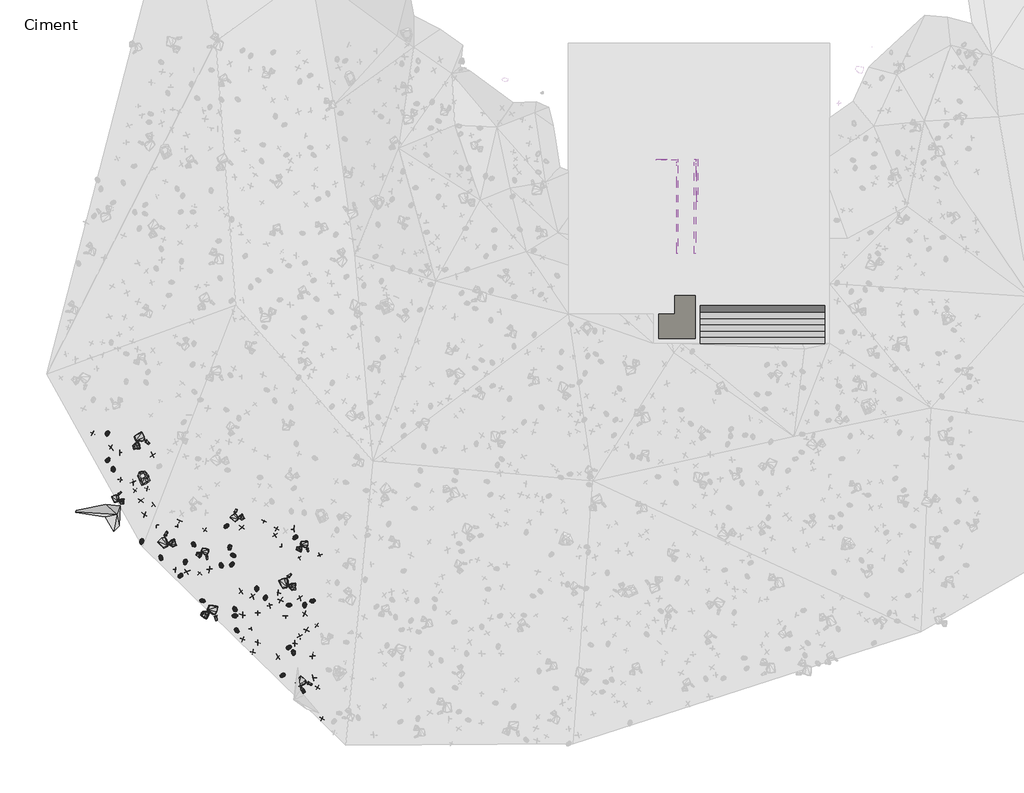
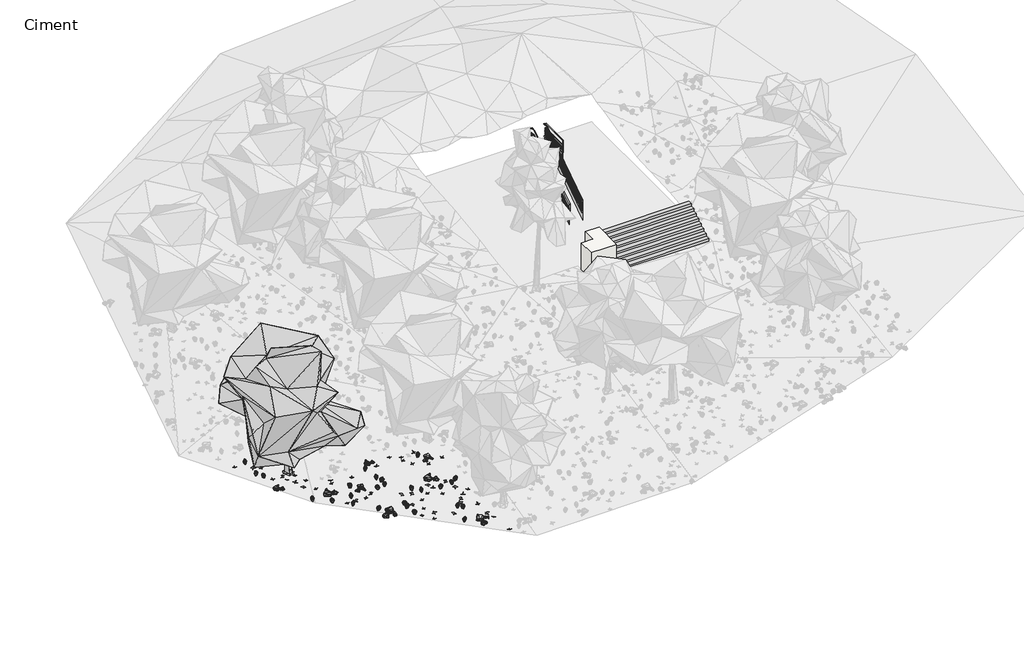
# One storey, part 1 of 30: 86 geographic elements, 2 railings, 1 slab, 1 stair flight.
"""IFC4 building model written with IfcOpenShell, lengths in millimetres."""

from ifc_helpers import new_model, si_unit, frame, origin, place, context, project, spatial, polyline, outline, extrude, transform, mapped, element, save
from components import enscape_assetdefinition_bush_025_fern_enscape_5718bf32, enscape_assetdefinition_bush_054_plant_09_version_2_enscape_7b546a12, enscape_assetdefinition_bush_062_plant_09_version_3_enscape_ccf8c8eb, enscape_assetdefinition_deciduous_tree_029_elm_enscape_e4c49baf, enscape_assetdefinition_stone_013_group_enscape_516da325, enscape_assetdefinition_stone_013_group_enscape_db9b3e91, railing_91c5b084, railing_c1485744, stair_flight_0d7ca2d1

model = new_model("IFC4")

# Units and contexts
model_context = context("Model", 3, world=origin())
ifc_project = project(units=[si_unit("LENGTHUNIT", "METRE", prefix="MILLI")], contexts=[model_context])

# Site, building, storey
site = spatial("IfcSite", under=ifc_project)
building = spatial("IfcBuilding", under=site)
storey = spatial("IfcBuildingStorey", under=building, Name="Ciment", Elevation=-1500.0)

# Geographic elements
placement = place(None, origin())
enscape_assetdefinition_bush_025_fern_enscape_shape = enscape_assetdefinition_bush_025_fern_enscape_5718bf32(model_context)
element("IfcGeographicElement", 1, ObjectType="Enscape AssetDefinition - Bush 025 Fern : Enscape AssetDefinition - Bush 025 Fern", at=placement, inside=storey, context=model_context, shape_type="MappedRepresentation", body=[
    mapped(enscape_assetdefinition_bush_025_fern_enscape_shape, transform((-20102.2186279, -25564.6743774, -2973.0787277), x_axis=(0.6694233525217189, -0.742881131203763, 0.0), y_axis=(0.742881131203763, 0.6694233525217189, 0.0), z_axis=(0.0, 0.0, 1.0))),
])
element("IfcGeographicElement", 2, ObjectType="Enscape AssetDefinition - Bush 025 Fern : Enscape AssetDefinition - Bush 025 Fern", at=placement, inside=storey, context=model_context, shape_type="MappedRepresentation", body=[
    mapped(enscape_assetdefinition_bush_025_fern_enscape_shape, transform((-17600.1472473, -26370.595932, -2863.1682396), x_axis=(0.735986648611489, 0.676996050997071, 0.0), y_axis=(-0.676996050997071, 0.735986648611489, 0.0), z_axis=(0.0, 0.0, 1.0))),
])
element("IfcGeographicElement", 3, ObjectType="Enscape AssetDefinition - Bush 025 Fern : Enscape AssetDefinition - Bush 025 Fern", at=placement, inside=storey, context=model_context, shape_type="MappedRepresentation", body=[
    mapped(enscape_assetdefinition_bush_025_fern_enscape_shape, transform((-20445.2896118, -21581.6516876, -2728.1508446), x_axis=(-0.0021429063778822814, -0.999997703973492, 0.0), y_axis=(0.999997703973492, -0.0021429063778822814, 0.0), z_axis=(0.0, 0.0, 1.0))),
])
element("IfcGeographicElement", 4, ObjectType="Enscape AssetDefinition - Bush 025 Fern : Enscape AssetDefinition - Bush 025 Fern", at=placement, inside=storey, context=model_context, shape_type="MappedRepresentation", body=[
    mapped(enscape_assetdefinition_bush_025_fern_enscape_shape, transform((-23745.6932068, -22083.1394196, -2978.1727791), x_axis=(0.3680005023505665, -0.929825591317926, 0.0), y_axis=(0.929825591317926, 0.3680005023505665, 0.0), z_axis=(0.0, 0.0, 1.0))),
])
element("IfcGeographicElement", 5, ObjectType="Enscape AssetDefinition - Bush 025 Fern : Enscape AssetDefinition - Bush 025 Fern", at=placement, inside=storey, context=model_context, shape_type="MappedRepresentation", body=[
    mapped(enscape_assetdefinition_bush_025_fern_enscape_shape, transform((-20613.6112213, -20560.377121, -2670.6175804), x_axis=(-0.5796406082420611, -0.8148722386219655, 0.0), y_axis=(0.8148722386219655, -0.5796406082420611, 0.0), z_axis=(0.0, 0.0, 1.0))),
])
element("IfcGeographicElement", 6, ObjectType="Enscape AssetDefinition - Bush 025 Fern : Enscape AssetDefinition - Bush 025 Fern", at=placement, inside=storey, context=model_context, shape_type="MappedRepresentation", body=[
    mapped(enscape_assetdefinition_bush_025_fern_enscape_shape, transform((-22818.3917999, -22942.9569244, -2975.1124382), x_axis=(-0.6170606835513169, -0.7869155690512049, 0.0), y_axis=(0.7869155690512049, -0.6170606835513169, 0.0), z_axis=(0.0, 0.0, 1.0))),
])
element("IfcGeographicElement", 7, ObjectType="Enscape AssetDefinition - Bush 025 Fern : Enscape AssetDefinition - Bush 025 Fern", at=placement, inside=storey, context=model_context, shape_type="MappedRepresentation", body=[
    mapped(enscape_assetdefinition_bush_025_fern_enscape_shape, transform((-24664.0262604, -21301.3744354, -2991.165638), x_axis=(-0.066039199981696, -0.9978170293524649, 0.0), y_axis=(0.9978170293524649, -0.066039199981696, 0.0), z_axis=(0.0, 0.0, 1.0))),
])
element("IfcGeographicElement", 8, ObjectType="Enscape AssetDefinition - Bush 025 Fern : Enscape AssetDefinition - Bush 025 Fern", at=placement, inside=storey, context=model_context, shape_type="MappedRepresentation", body=[
    mapped(enscape_assetdefinition_bush_025_fern_enscape_shape, transform((-19157.8292847, -23571.9432831, -2777.3804665), x_axis=(0.1875810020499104, -0.9822491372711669, 0.0), y_axis=(0.9822491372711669, 0.1875810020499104, 0.0), z_axis=(0.0, 0.0, 1.0))),
])
element("IfcGeographicElement", 9, ObjectType="Enscape AssetDefinition - Bush 025 Fern : Enscape AssetDefinition - Bush 025 Fern", at=placement, inside=storey, context=model_context, shape_type="MappedRepresentation", body=[
    mapped(enscape_assetdefinition_bush_025_fern_enscape_shape, transform((-20199.508667, -24524.0306854, -2909.5883369), x_axis=(-0.6709760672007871, 0.7414790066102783, 0.0), y_axis=(-0.7414790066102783, -0.6709760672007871, 0.0), z_axis=(0.0, 0.0, 1.0))),
])
element("IfcGeographicElement", 10, ObjectType="Enscape AssetDefinition - Bush 025 Fern : Enscape AssetDefinition - Bush 025 Fern", at=placement, inside=storey, context=model_context, shape_type="MappedRepresentation", body=[
    mapped(enscape_assetdefinition_bush_025_fern_enscape_shape, transform((-20212.9859924, -24852.8499603, -2932.5480461), x_axis=(-0.9701738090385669, -0.24241035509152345, 0.0), y_axis=(0.24241035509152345, -0.9701738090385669, 0.0), z_axis=(0.0, 0.0, 1.0))),
])
element("IfcGeographicElement", 11, ObjectType="Enscape AssetDefinition - Bush 025 Fern : Enscape AssetDefinition - Bush 025 Fern", at=placement, inside=storey, context=model_context, shape_type="MappedRepresentation", body=[
    mapped(enscape_assetdefinition_bush_025_fern_enscape_shape, transform((-20849.5025635, -22427.1526337, -2811.4142418), x_axis=(-0.5286842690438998, 0.8488185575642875, 0.0), y_axis=(-0.8488185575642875, -0.5286842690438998, 0.0), z_axis=(0.0, 0.0, 1.0))),
])
element("IfcGeographicElement", 12, ObjectType="Enscape AssetDefinition - Bush 025 Fern : Enscape AssetDefinition - Bush 025 Fern", at=placement, inside=storey, context=model_context, shape_type="MappedRepresentation", body=[
    mapped(enscape_assetdefinition_bush_025_fern_enscape_shape, transform((-22167.1066284, -21444.6353912, -2831.8223953), x_axis=(0.6303908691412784, -0.7762778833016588, 0.0), y_axis=(0.7762778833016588, 0.6303908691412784, 0.0), z_axis=(0.0, 0.0, 1.0))),
])
element("IfcGeographicElement", 13, ObjectType="Enscape AssetDefinition - Bush 025 Fern : Enscape AssetDefinition - Bush 025 Fern", at=placement, inside=storey, context=model_context, shape_type="MappedRepresentation", body=[
    mapped(enscape_assetdefinition_bush_025_fern_enscape_shape, transform((-16853.2295227, -24327.1312714, -2677.008152), x_axis=(-0.16773880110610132, 0.9858314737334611, 0.0), y_axis=(-0.9858314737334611, -0.16773880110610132, 0.0), z_axis=(0.0, 0.0, 1.0))),
])
element("IfcGeographicElement", 14, ObjectType="Enscape AssetDefinition - Bush 025 Fern : Enscape AssetDefinition - Bush 025 Fern", at=placement, inside=storey, context=model_context, shape_type="MappedRepresentation", body=[
    mapped(enscape_assetdefinition_bush_025_fern_enscape_shape, transform((-16469.1810608, -24141.708374, -2639.3842697), x_axis=(0.9436808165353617, 0.3308572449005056, 0.0), y_axis=(-0.3308572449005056, 0.9436808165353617, 0.0), z_axis=(0.0, 0.0, 1.0))),
])
element("IfcGeographicElement", 15, ObjectType="Enscape AssetDefinition - Bush 025 Fern : Enscape AssetDefinition - Bush 025 Fern", at=placement, inside=storey, context=model_context, shape_type="MappedRepresentation", body=[
    mapped(enscape_assetdefinition_bush_025_fern_enscape_shape, transform((-26278.3870697, -17383.4896088, -2939.6257401), x_axis=(0.4544900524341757, 0.8907518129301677, 0.0), y_axis=(-0.8907518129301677, 0.4544900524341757, 0.0), z_axis=(0.0, 0.0, 1.0))),
])
element("IfcGeographicElement", 16, ObjectType="Enscape AssetDefinition - Bush 025 Fern : Enscape AssetDefinition - Bush 025 Fern", at=placement, inside=storey, context=model_context, shape_type="MappedRepresentation", body=[
    mapped(enscape_assetdefinition_bush_025_fern_enscape_shape, transform((-21753.5991669, -24129.7225952, -2984.9908352), x_axis=(-0.9996823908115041, -0.025201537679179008, 0.0), y_axis=(0.025201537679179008, -0.9996823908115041, 0.0), z_axis=(0.0, 0.0, 1.0))),
])
element("IfcGeographicElement", 17, ObjectType="Enscape AssetDefinition - Bush 025 Fern : Enscape AssetDefinition - Bush 025 Fern", at=placement, inside=storey, context=model_context, shape_type="MappedRepresentation", body=[
    mapped(enscape_assetdefinition_bush_025_fern_enscape_shape, transform((-20271.5187073, -21961.5077972, -2742.2623634), x_axis=(0.973821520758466, -0.22731398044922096, 0.0), y_axis=(0.22731398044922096, 0.973821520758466, 0.0), z_axis=(0.0, 0.0, 1.0))),
])
element("IfcGeographicElement", 18, ObjectType="Enscape AssetDefinition - Bush 025 Fern : Enscape AssetDefinition - Bush 025 Fern", at=placement, inside=storey, context=model_context, shape_type="MappedRepresentation", body=[
    mapped(enscape_assetdefinition_bush_025_fern_enscape_shape, transform((-20334.11026, -22384.9029541, -2774.7921944), x_axis=(0.5225578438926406, 0.8526038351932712, 0.0), y_axis=(-0.8526038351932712, 0.5225578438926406, 0.0), z_axis=(0.0, 0.0, 1.0))),
])
element("IfcGeographicElement", 19, ObjectType="Enscape AssetDefinition - Bush 025 Fern : Enscape AssetDefinition - Bush 025 Fern", at=placement, inside=storey, context=model_context, shape_type="MappedRepresentation", body=[
    mapped(enscape_assetdefinition_bush_025_fern_enscape_shape, transform((-17917.3030853, -27705.9116364, -2973.6123085), x_axis=(-0.8100790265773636, -0.5863207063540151, 0.0), y_axis=(0.5863207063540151, -0.8100790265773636, 0.0), z_axis=(0.0, 0.0, 1.0))),
])
element("IfcGeographicElement", 20, ObjectType="Enscape AssetDefinition - Bush 025 Fern : Enscape AssetDefinition - Bush 025 Fern", at=placement, inside=storey, context=model_context, shape_type="MappedRepresentation", body=[
    mapped(enscape_assetdefinition_bush_025_fern_enscape_shape, transform((-17312.5934601, -21097.486496, -2490.2858734), x_axis=(-0.652975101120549, -0.7573793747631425, 0.0), y_axis=(0.7573793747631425, -0.652975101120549, 0.0), z_axis=(0.0, 0.0, 1.0))),
])
element("IfcGeographicElement", 21, ObjectType="Enscape AssetDefinition - Bush 025 Fern : Enscape AssetDefinition - Bush 025 Fern", at=placement, inside=storey, context=model_context, shape_type="MappedRepresentation", body=[
    mapped(enscape_assetdefinition_bush_025_fern_enscape_shape, transform((-26022.7928162, -17822.5498199, -2938.5557175), x_axis=(-0.26306520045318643, 0.9647780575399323, 0.0), y_axis=(-0.9647780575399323, -0.26306520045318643, 0.0), z_axis=(0.0, 0.0, 1.0))),
])
element("IfcGeographicElement", 22, ObjectType="Enscape AssetDefinition - Bush 025 Fern : Enscape AssetDefinition - Bush 025 Fern", at=placement, inside=storey, context=model_context, shape_type="MappedRepresentation", body=[
    mapped(enscape_assetdefinition_bush_025_fern_enscape_shape, transform((-18742.3019409, -23998.1784821, -2778.7578106), x_axis=(-0.21654940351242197, -0.9762716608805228, 0.0), y_axis=(0.9762716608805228, -0.21654940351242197, 0.0), z_axis=(0.0, 0.0, 1.0))),
])
element("IfcGeographicElement", 23, ObjectType="Enscape AssetDefinition - Bush 025 Fern : Enscape AssetDefinition - Bush 025 Fern", at=placement, inside=storey, context=model_context, shape_type="MappedRepresentation", body=[
    mapped(enscape_assetdefinition_bush_025_fern_enscape_shape, transform((-26308.7806702, -16124.0005493, -2878.2701492), x_axis=(-0.2324594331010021, -0.9726060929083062, 0.0), y_axis=(0.9726060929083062, -0.2324594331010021, 0.0), z_axis=(0.0, 0.0, 1.0))),
])
element("IfcGeographicElement", 24, ObjectType="Enscape AssetDefinition - Bush 025 Fern : Enscape AssetDefinition - Bush 025 Fern", at=placement, inside=storey, context=model_context, shape_type="MappedRepresentation", body=[
    mapped(enscape_assetdefinition_bush_025_fern_enscape_shape, transform((-22576.2023926, -22285.3679657, -2915.0867462), x_axis=(-0.035206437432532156, -0.9993800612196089, 0.0), y_axis=(0.9993800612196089, -0.035206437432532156, 0.0), z_axis=(0.0, 0.0, 1.0))),
])
element("IfcGeographicElement", 25, ObjectType="Enscape AssetDefinition - Bush 025 Fern : Enscape AssetDefinition - Bush 025 Fern", at=placement, inside=storey, context=model_context, shape_type="MappedRepresentation", body=[
    mapped(enscape_assetdefinition_bush_025_fern_enscape_shape, transform((-17395.9350586, -26624.0520477, -2866.7986393), x_axis=(0.3430333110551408, -0.939323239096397, 0.0), y_axis=(0.939323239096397, 0.3430333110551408, 0.0), z_axis=(0.0, 0.0, 1.0))),
])
element("IfcGeographicElement", 26, ObjectType="Enscape AssetDefinition - Bush 025 Fern : Enscape AssetDefinition - Bush 025 Fern", at=placement, inside=storey, context=model_context, shape_type="MappedRepresentation", body=[
    mapped(enscape_assetdefinition_bush_025_fern_enscape_shape, transform((-17594.6063995, -24346.9982147, -2726.9423008), x_axis=(0.9698204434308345, 0.24382023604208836, 0.0), y_axis=(-0.24382023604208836, 0.9698204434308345, 0.0), z_axis=(0.0, 0.0, 1.0))),
])
enscape_assetdefinition_bush_054_plant_09_version_2_enscape_shape = enscape_assetdefinition_bush_054_plant_09_version_2_enscape_7b546a12(model_context)
element("IfcGeographicElement", 27, ObjectType="Enscape AssetDefinition - Bush 054 Plant 09, Version 2 : Enscape AssetDefinition - Bush 054 Plant 09, Version 2", at=placement, inside=storey, context=model_context, shape_type="MappedRepresentation", body=[
    mapped(enscape_assetdefinition_bush_054_plant_09_version_2_enscape_shape, transform((-18802.3376465, -20321.8040466, -2535.8641148), x_axis=(0.2993883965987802, 0.9541313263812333, 0.0), y_axis=(-0.9541313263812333, 0.2993883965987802, 0.0), z_axis=(0.0, 0.0, 1.0))),
])
element("IfcGeographicElement", 28, ObjectType="Enscape AssetDefinition - Bush 054 Plant 09, Version 2 : Enscape AssetDefinition - Bush 054 Plant 09, Version 2", at=placement, inside=storey, context=model_context, shape_type="MappedRepresentation", body=[
    mapped(enscape_assetdefinition_bush_054_plant_09_version_2_enscape_shape, transform((-24983.4022522, -18854.0287018, -2895.8067894), x_axis=(0.8370258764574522, -0.5471633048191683, 0.0), y_axis=(0.5471633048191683, 0.8370258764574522, 0.0), z_axis=(0.0, 0.0, 1.0))),
])
element("IfcGeographicElement", 29, ObjectType="Enscape AssetDefinition - Bush 054 Plant 09, Version 2 : Enscape AssetDefinition - Bush 054 Plant 09, Version 2", at=placement, inside=storey, context=model_context, shape_type="MappedRepresentation", body=[
    mapped(enscape_assetdefinition_bush_054_plant_09_version_2_enscape_shape, transform((-17935.7013702, -21535.8028412, -2560.5607033), x_axis=(-0.9965780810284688, -0.08265669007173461, 0.0), y_axis=(0.08265669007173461, -0.9965780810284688, 0.0), z_axis=(0.0, 0.0, 1.0))),
])
element("IfcGeographicElement", 30, ObjectType="Enscape AssetDefinition - Bush 054 Plant 09, Version 2 : Enscape AssetDefinition - Bush 054 Plant 09, Version 2", at=placement, inside=storey, context=model_context, shape_type="MappedRepresentation", body=[
    mapped(enscape_assetdefinition_bush_054_plant_09_version_2_enscape_shape, transform((-21871.9291687, -22809.2918396, -2904.094696), x_axis=(-0.7545631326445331, 0.6562274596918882, 0.0), y_axis=(-0.6562274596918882, -0.7545631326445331, 0.0), z_axis=(0.0, 0.0, 1.0))),
])
element("IfcGeographicElement", 31, ObjectType="Enscape AssetDefinition - Bush 054 Plant 09, Version 2 : Enscape AssetDefinition - Bush 054 Plant 09, Version 2", at=placement, inside=storey, context=model_context, shape_type="MappedRepresentation", body=[
    mapped(enscape_assetdefinition_bush_054_plant_09_version_2_enscape_shape, transform((-19824.4915009, -25981.4128876, -2982.852459), x_axis=(0.9542722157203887, -0.2989390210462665, 0.0), y_axis=(0.2989390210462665, 0.9542722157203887, 0.0), z_axis=(0.0, 0.0, 1.0))),
])
element("IfcGeographicElement", 32, ObjectType="Enscape AssetDefinition - Bush 054 Plant 09, Version 2 : Enscape AssetDefinition - Bush 054 Plant 09, Version 2", at=placement, inside=storey, context=model_context, shape_type="MappedRepresentation", body=[
    mapped(enscape_assetdefinition_bush_054_plant_09_version_2_enscape_shape, transform((-19347.7287292, -26594.8371887, -2992.7830696), x_axis=(-0.09773755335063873, -0.9952122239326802, 0.0), y_axis=(0.9952122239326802, -0.09773755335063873, 0.0), z_axis=(0.0, 0.0, 1.0))),
])
element("IfcGeographicElement", 33, ObjectType="Enscape AssetDefinition - Bush 054 Plant 09, Version 2 : Enscape AssetDefinition - Bush 054 Plant 09, Version 2", at=placement, inside=storey, context=model_context, shape_type="MappedRepresentation", body=[
    mapped(enscape_assetdefinition_bush_054_plant_09_version_2_enscape_shape, transform((-17776.4816284, -24867.7425385, -2773.827076), x_axis=(0.99303299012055, 0.1178366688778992, 0.0), y_axis=(-0.1178366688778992, 0.99303299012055, 0.0), z_axis=(0.0, 0.0, 1.0))),
])
element("IfcGeographicElement", 34, ObjectType="Enscape AssetDefinition - Bush 054 Plant 09, Version 2 : Enscape AssetDefinition - Bush 054 Plant 09, Version 2", at=placement, inside=storey, context=model_context, shape_type="MappedRepresentation", body=[
    mapped(enscape_assetdefinition_bush_054_plant_09_version_2_enscape_shape, transform((-23028.7971497, -22642.6906586, -2968.7457085), x_axis=(0.03217273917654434, 0.9994823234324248, 0.0), y_axis=(-0.9994823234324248, 0.03217273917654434, 0.0), z_axis=(0.0, 0.0, 1.0))),
])
element("IfcGeographicElement", 35, ObjectType="Enscape AssetDefinition - Bush 054 Plant 09, Version 2 : Enscape AssetDefinition - Bush 054 Plant 09, Version 2", at=placement, inside=storey, context=model_context, shape_type="MappedRepresentation", body=[
    mapped(enscape_assetdefinition_bush_054_plant_09_version_2_enscape_shape, transform((-18191.280365, -20692.4343109, -2520.6918716), x_axis=(0.4440866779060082, 0.8959838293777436, 0.0), y_axis=(-0.8959838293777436, 0.4440866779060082, 0.0), z_axis=(0.0, 0.0, 1.0))),
])
element("IfcGeographicElement", 36, ObjectType="Enscape AssetDefinition - Bush 054 Plant 09, Version 2 : Enscape AssetDefinition - Bush 054 Plant 09, Version 2", at=placement, inside=storey, context=model_context, shape_type="MappedRepresentation", body=[
    mapped(enscape_assetdefinition_bush_054_plant_09_version_2_enscape_shape, transform((-16132.1754456, -21942.5373077, -2469.6412086), x_axis=(-0.9123242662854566, -0.40946847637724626, 0.0), y_axis=(0.40946847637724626, -0.9123242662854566, 0.0), z_axis=(0.0, 0.0, 1.0))),
])
element("IfcGeographicElement", 37, ObjectType="Enscape AssetDefinition - Bush 054 Plant 09, Version 2 : Enscape AssetDefinition - Bush 054 Plant 09, Version 2", at=placement, inside=storey, context=model_context, shape_type="MappedRepresentation", body=[
    mapped(enscape_assetdefinition_bush_054_plant_09_version_2_enscape_shape, transform((-23965.6066895, -20516.1418915, -2893.0912018), x_axis=(-0.08381438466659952, 0.9964813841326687, 0.0), y_axis=(-0.9964813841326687, -0.08381438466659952, 0.0), z_axis=(0.0, 0.0, 1.0))),
])
element("IfcGeographicElement", 38, ObjectType="Enscape AssetDefinition - Bush 054 Plant 09, Version 2 : Enscape AssetDefinition - Bush 054 Plant 09, Version 2", at=placement, inside=storey, context=model_context, shape_type="MappedRepresentation", body=[
    mapped(enscape_assetdefinition_bush_054_plant_09_version_2_enscape_shape, transform((-16242.6681519, -28284.1320038, -2902.654171), x_axis=(-0.48083857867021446, -0.8768091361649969, 0.0), y_axis=(0.8768091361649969, -0.48083857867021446, 0.0), z_axis=(0.0, 0.0, 1.0))),
])
element("IfcGeographicElement", 39, ObjectType="Enscape AssetDefinition - Bush 054 Plant 09, Version 2 : Enscape AssetDefinition - Bush 054 Plant 09, Version 2", at=placement, inside=storey, context=model_context, shape_type="MappedRepresentation", body=[
    mapped(enscape_assetdefinition_bush_054_plant_09_version_2_enscape_shape, transform((-24086.0176086, -19532.3104858, -2848.0877876), x_axis=(0.7188040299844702, 0.6952127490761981, 0.0), y_axis=(-0.6952127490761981, 0.7188040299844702, 0.0), z_axis=(0.0, 0.0, 1.0))),
])
element("IfcGeographicElement", 40, ObjectType="Enscape AssetDefinition - Bush 054 Plant 09, Version 2 : Enscape AssetDefinition - Bush 054 Plant 09, Version 2", at=placement, inside=storey, context=model_context, shape_type="MappedRepresentation", body=[
    mapped(enscape_assetdefinition_bush_054_plant_09_version_2_enscape_shape, transform((-17121.9158173, -22061.3765717, -2542.5004959), x_axis=(-0.5169910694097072, 0.8559907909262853, 0.0), y_axis=(-0.8559907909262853, -0.5169910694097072, 0.0), z_axis=(0.0, 0.0, 1.0))),
])
element("IfcGeographicElement", 41, ObjectType="Enscape AssetDefinition - Bush 054 Plant 09, Version 2 : Enscape AssetDefinition - Bush 054 Plant 09, Version 2", at=placement, inside=storey, context=model_context, shape_type="MappedRepresentation", body=[
    mapped(enscape_assetdefinition_bush_054_plant_09_version_2_enscape_shape, transform((-22932.7964783, -20582.7274323, -2826.5953064), x_axis=(0.013493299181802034, 0.9999089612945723, 0.0), y_axis=(-0.9999089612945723, 0.013493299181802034, 0.0), z_axis=(0.0, 0.0, 1.0))),
])
element("IfcGeographicElement", 42, ObjectType="Enscape AssetDefinition - Bush 054 Plant 09, Version 2 : Enscape AssetDefinition - Bush 054 Plant 09, Version 2", at=placement, inside=storey, context=model_context, shape_type="MappedRepresentation", body=[
    mapped(enscape_assetdefinition_bush_054_plant_09_version_2_enscape_shape, transform((-25682.7907562, -18327.287674, -2933.0928326), x_axis=(-0.0794235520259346, -0.9968409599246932, 0.0), y_axis=(0.9968409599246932, -0.0794235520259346, 0.0), z_axis=(0.0, 0.0, 1.0))),
])
element("IfcGeographicElement", 43, ObjectType="Enscape AssetDefinition - Bush 054 Plant 09, Version 2 : Enscape AssetDefinition - Bush 054 Plant 09, Version 2", at=placement, inside=storey, context=model_context, shape_type="MappedRepresentation", body=[
    mapped(enscape_assetdefinition_bush_054_plant_09_version_2_enscape_shape, transform((-27005.1021576, -16107.5611115, -2941.2631989), x_axis=(-0.9142706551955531, 0.4051038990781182, 0.0), y_axis=(-0.4051038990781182, -0.9142706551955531, 0.0), z_axis=(0.0, 0.0, 1.0))),
])
element("IfcGeographicElement", 44, ObjectType="Enscape AssetDefinition - Bush 054 Plant 09, Version 2 : Enscape AssetDefinition - Bush 054 Plant 09, Version 2", at=placement, inside=storey, context=model_context, shape_type="MappedRepresentation", body=[
    mapped(enscape_assetdefinition_bush_054_plant_09_version_2_enscape_shape, transform((-16020.2064514, -29794.0692902, -2989.4483089), x_axis=(0.4050214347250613, 0.9143071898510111, 0.0), y_axis=(-0.9143071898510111, 0.4050214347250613, 0.0), z_axis=(0.0, 0.0, 1.0))),
])
element("IfcGeographicElement", 45, ObjectType="Enscape AssetDefinition - Bush 054 Plant 09, Version 2 : Enscape AssetDefinition - Bush 054 Plant 09, Version 2", at=placement, inside=storey, context=model_context, shape_type="MappedRepresentation", body=[
    mapped(enscape_assetdefinition_bush_054_plant_09_version_2_enscape_shape, transform((-18518.1560516, -24366.2586212, -2788.7773514), x_axis=(-0.23719430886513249, 0.9714622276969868, 0.0), y_axis=(-0.9714622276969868, -0.23719430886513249, 0.0), z_axis=(0.0, 0.0, 1.0))),
])
element("IfcGeographicElement", 46, ObjectType="Enscape AssetDefinition - Bush 054 Plant 09, Version 2 : Enscape AssetDefinition - Bush 054 Plant 09, Version 2", at=placement, inside=storey, context=model_context, shape_type="MappedRepresentation", body=[
    mapped(enscape_assetdefinition_bush_054_plant_09_version_2_enscape_shape, transform((-18273.0407715, -20987.0910645, -2545.8335876), x_axis=(-0.5994362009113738, 0.8004225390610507, 0.0), y_axis=(-0.8004225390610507, -0.5994362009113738, 0.0), z_axis=(0.0, 0.0, 1.0))),
])
element("IfcGeographicElement", 47, ObjectType="Enscape AssetDefinition - Bush 054 Plant 09, Version 2 : Enscape AssetDefinition - Bush 054 Plant 09, Version 2", at=placement, inside=storey, context=model_context, shape_type="MappedRepresentation", body=[
    mapped(enscape_assetdefinition_bush_054_plant_09_version_2_enscape_shape, transform((-19412.9734039, -25454.2827606, -2920.4847813), x_axis=(0.2235027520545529, -0.9747032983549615, 0.0), y_axis=(0.9747032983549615, 0.2235027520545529, 0.0), z_axis=(0.0, 0.0, 1.0))),
])
element("IfcGeographicElement", 48, ObjectType="Enscape AssetDefinition - Bush 054 Plant 09, Version 2 : Enscape AssetDefinition - Bush 054 Plant 09, Version 2", at=placement, inside=storey, context=model_context, shape_type="MappedRepresentation", body=[
    mapped(enscape_assetdefinition_bush_054_plant_09_version_2_enscape_shape, transform((-22836.6088867, -20299.0283966, -2803.0228615), x_axis=(0.3542069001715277, 0.9351670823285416, 0.0), y_axis=(-0.9351670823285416, 0.3542069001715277, 0.0), z_axis=(0.0, 0.0, 1.0))),
])
element("IfcGeographicElement", 49, ObjectType="Enscape AssetDefinition - Bush 054 Plant 09, Version 2 : Enscape AssetDefinition - Bush 054 Plant 09, Version 2", at=placement, inside=storey, context=model_context, shape_type="MappedRepresentation", body=[
    mapped(enscape_assetdefinition_bush_054_plant_09_version_2_enscape_shape, transform((-21645.7824707, -20730.4668427, -2749.6991158), x_axis=(-0.5147576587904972, -0.8573357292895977, 0.0), y_axis=(0.8573357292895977, -0.5147576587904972, 0.0), z_axis=(0.0, 0.0, 1.0))),
])
element("IfcGeographicElement", 50, ObjectType="Enscape AssetDefinition - Bush 054 Plant 09, Version 2 : Enscape AssetDefinition - Bush 054 Plant 09, Version 2", at=placement, inside=storey, context=model_context, shape_type="MappedRepresentation", body=[
    mapped(enscape_assetdefinition_bush_054_plant_09_version_2_enscape_shape, transform((-16290.9164429, -25310.7242584, -2706.1851025), x_axis=(0.8235251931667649, -0.5672796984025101, 0.0), y_axis=(0.5672796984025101, 0.8235251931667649, 0.0), z_axis=(0.0, 0.0, 1.0))),
])
element("IfcGeographicElement", 51, ObjectType="Enscape AssetDefinition - Bush 054 Plant 09, Version 2 : Enscape AssetDefinition - Bush 054 Plant 09, Version 2", at=placement, inside=storey, context=model_context, shape_type="MappedRepresentation", body=[
    mapped(enscape_assetdefinition_bush_054_plant_09_version_2_enscape_shape, transform((-19096.7121124, -24717.7181244, -2850.2995968), x_axis=(-0.041237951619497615, 0.999149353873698, 0.0), y_axis=(-0.999149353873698, -0.041237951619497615, 0.0), z_axis=(0.0, 0.0, 1.0))),
])
element("IfcGeographicElement", 52, ObjectType="Enscape AssetDefinition - Bush 054 Plant 09, Version 2 : Enscape AssetDefinition - Bush 054 Plant 09, Version 2", at=placement, inside=storey, context=model_context, shape_type="MappedRepresentation", body=[
    mapped(enscape_assetdefinition_bush_054_plant_09_version_2_enscape_shape, transform((-25727.935791, -17041.4390564, -2871.7467785), x_axis=(0.9974093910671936, 0.07193404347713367, 0.0), y_axis=(-0.07193404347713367, 0.9974093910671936, 0.0), z_axis=(0.0, 0.0, 1.0))),
])
element("IfcGeographicElement", 53, ObjectType="Enscape AssetDefinition - Bush 054 Plant 09, Version 2 : Enscape AssetDefinition - Bush 054 Plant 09, Version 2", at=placement, inside=storey, context=model_context, shape_type="MappedRepresentation", body=[
    mapped(enscape_assetdefinition_bush_054_plant_09_version_2_enscape_shape, transform((-24406.1050415, -18758.9435577, -2838.0441666), x_axis=(-0.23007858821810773, -0.9731720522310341, 0.0), y_axis=(0.9731720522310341, -0.23007858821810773, 0.0), z_axis=(0.0, 0.0, 1.0))),
])
enscape_assetdefinition_bush_062_plant_09_version_3_enscape_shape = enscape_assetdefinition_bush_062_plant_09_version_3_enscape_ccf8c8eb(model_context)
element("IfcGeographicElement", 54, ObjectType="Enscape AssetDefinition - Bush 062 Plant 09, Version 3 : Enscape AssetDefinition - Bush 062 Plant 09, Version 3", at=placement, inside=storey, context=model_context, shape_type="MappedRepresentation", body=[
    mapped(enscape_assetdefinition_bush_062_plant_09_version_3_enscape_shape, transform((-17070.7492828, -24000.7991791, -2669.3582535), x_axis=(-0.7917335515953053, -0.6108665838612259, 0.0), y_axis=(0.6108665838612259, -0.7917335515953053, 0.0), z_axis=(0.0, 0.0, 1.0))),
])
element("IfcGeographicElement", 55, ObjectType="Enscape AssetDefinition - Bush 062 Plant 09, Version 3 : Enscape AssetDefinition - Bush 062 Plant 09, Version 3", at=placement, inside=storey, context=model_context, shape_type="MappedRepresentation", body=[
    mapped(enscape_assetdefinition_bush_062_plant_09_version_3_enscape_shape, transform((-16838.6497498, -24757.6351166, -2704.9574852), x_axis=(-0.30060051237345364, -0.9537501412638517, 0.0), y_axis=(0.9537501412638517, -0.30060051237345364, 0.0), z_axis=(0.0, 0.0, 1.0))),
])
element("IfcGeographicElement", 56, ObjectType="Enscape AssetDefinition - Bush 062 Plant 09, Version 3 : Enscape AssetDefinition - Bush 062 Plant 09, Version 3", at=placement, inside=storey, context=model_context, shape_type="MappedRepresentation", body=[
    mapped(enscape_assetdefinition_bush_062_plant_09_version_3_enscape_shape, transform((-19870.8686829, -20625.6351471, -2626.3084412), x_axis=(-0.9012670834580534, 0.43326394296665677, 0.0), y_axis=(-0.43326394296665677, -0.9012670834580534, 0.0), z_axis=(0.0, 0.0, 1.0))),
])
element("IfcGeographicElement", 57, ObjectType="Enscape AssetDefinition - Bush 062 Plant 09, Version 3 : Enscape AssetDefinition - Bush 062 Plant 09, Version 3", at=placement, inside=storey, context=model_context, shape_type="MappedRepresentation", body=[
    mapped(enscape_assetdefinition_bush_062_plant_09_version_3_enscape_shape, transform((-19837.4633789, -24816.2612915, -2905.4756165), x_axis=(-0.10147893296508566, 0.994837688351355, 0.0), y_axis=(-0.994837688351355, -0.10147893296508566, 0.0), z_axis=(0.0, 0.0, 1.0))),
])
element("IfcGeographicElement", 58, ObjectType="Enscape AssetDefinition - Bush 062 Plant 09, Version 3 : Enscape AssetDefinition - Bush 062 Plant 09, Version 3", at=placement, inside=storey, context=model_context, shape_type="MappedRepresentation", body=[
    mapped(enscape_assetdefinition_bush_062_plant_09_version_3_enscape_shape, transform((-16767.5476074, -25527.9827118, -2752.0165443), x_axis=(0.9754618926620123, -0.22016833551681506, 0.0), y_axis=(0.22016833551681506, 0.9754618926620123, 0.0), z_axis=(0.0, 0.0, 1.0))),
])
element("IfcGeographicElement", 59, ObjectType="Enscape AssetDefinition - Bush 062 Plant 09, Version 3 : Enscape AssetDefinition - Bush 062 Plant 09, Version 3", at=placement, inside=storey, context=model_context, shape_type="MappedRepresentation", body=[
    mapped(enscape_assetdefinition_bush_062_plant_09_version_3_enscape_shape, transform((-17366.7678833, -20679.1095734, -2465.7473564), x_axis=(0.9574712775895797, 0.28852859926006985, 0.0), y_axis=(-0.28852859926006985, 0.9574712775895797, 0.0), z_axis=(0.0, 0.0, 1.0))),
])
element("IfcGeographicElement", 60, ObjectType="Enscape AssetDefinition - Bush 062 Plant 09, Version 3 : Enscape AssetDefinition - Bush 062 Plant 09, Version 3", at=placement, inside=storey, context=model_context, shape_type="MappedRepresentation", body=[
    mapped(enscape_assetdefinition_bush_062_plant_09_version_3_enscape_shape, transform((-24540.5426025, -19998.4817505, -2913.4936333), x_axis=(0.2531501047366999, 0.9674270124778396, 0.0), y_axis=(-0.9674270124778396, 0.2531501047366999, 0.0), z_axis=(0.0, 0.0, 1.0))),
])
element("IfcGeographicElement", 61, ObjectType="Enscape AssetDefinition - Bush 062 Plant 09, Version 3 : Enscape AssetDefinition - Bush 062 Plant 09, Version 3", at=placement, inside=storey, context=model_context, shape_type="MappedRepresentation", body=[
    mapped(enscape_assetdefinition_bush_062_plant_09_version_3_enscape_shape, transform((-24146.8505859, -17142.3511505, -2731.9507599), x_axis=(0.7486400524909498, 0.6629766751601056, 0.0), y_axis=(-0.6629766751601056, 0.7486400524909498, 0.0), z_axis=(0.0, 0.0, 1.0))),
])
element("IfcGeographicElement", 62, ObjectType="Enscape AssetDefinition - Bush 062 Plant 09, Version 3 : Enscape AssetDefinition - Bush 062 Plant 09, Version 3", at=placement, inside=storey, context=model_context, shape_type="MappedRepresentation", body=[
    mapped(enscape_assetdefinition_bush_062_plant_09_version_3_enscape_shape, transform((-16430.065155, -27825.0102997, -2884.1142654), x_axis=(0.3341872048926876, -0.9425067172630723, 0.0), y_axis=(0.9425067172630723, 0.3341872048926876, 0.0), z_axis=(0.0, 0.0, 1.0))),
])
element("IfcGeographicElement", 63, ObjectType="Enscape AssetDefinition - Bush 062 Plant 09, Version 3 : Enscape AssetDefinition - Bush 062 Plant 09, Version 3", at=placement, inside=storey, context=model_context, shape_type="MappedRepresentation", body=[
    mapped(enscape_assetdefinition_bush_062_plant_09_version_3_enscape_shape, transform((-26132.4729919, -16792.7532196, -2896.1653709), x_axis=(-0.4759724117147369, -0.8794602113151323, 0.0), y_axis=(0.8794602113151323, -0.4759724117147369, 0.0), z_axis=(0.0, 0.0, 1.0))),
])
element("IfcGeographicElement", 64, ObjectType="Enscape AssetDefinition - Bush 062 Plant 09, Version 3 : Enscape AssetDefinition - Bush 062 Plant 09, Version 3", at=placement, inside=storey, context=model_context, shape_type="MappedRepresentation", body=[
    mapped(enscape_assetdefinition_bush_062_plant_09_version_3_enscape_shape, transform((-18152.217865, -23737.1082306, -2722.5482464), x_axis=(0.027149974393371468, 0.9996313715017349, 0.0), y_axis=(-0.9996313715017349, 0.027149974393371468, 0.0), z_axis=(0.0, 0.0, 1.0))),
])
element("IfcGeographicElement", 65, ObjectType="Enscape AssetDefinition - Bush 062 Plant 09, Version 3 : Enscape AssetDefinition - Bush 062 Plant 09, Version 3", at=placement, inside=storey, context=model_context, shape_type="MappedRepresentation", body=[
    mapped(enscape_assetdefinition_bush_062_plant_09_version_3_enscape_shape, transform((-22499.3400574, -22734.9452972, -2940.2318001), x_axis=(0.6467352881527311, -0.7627145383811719, 0.0), y_axis=(0.7627145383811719, 0.6467352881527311, 0.0), z_axis=(0.0, 0.0, 1.0))),
])
element("IfcGeographicElement", 66, ObjectType="Enscape AssetDefinition - Bush 062 Plant 09, Version 3 : Enscape AssetDefinition - Bush 062 Plant 09, Version 3", at=placement, inside=storey, context=model_context, shape_type="MappedRepresentation", body=[
    mapped(enscape_assetdefinition_bush_062_plant_09_version_3_enscape_shape, transform((-25064.4683838, -18456.5906525, -2882.9975128), x_axis=(-0.9275259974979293, -0.3737586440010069, 0.0), y_axis=(0.3737586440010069, -0.9275259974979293, 0.0), z_axis=(0.0, 0.0, 1.0))),
])
element("IfcGeographicElement", 67, ObjectType="Enscape AssetDefinition - Bush 062 Plant 09, Version 3 : Enscape AssetDefinition - Bush 062 Plant 09, Version 3", at=placement, inside=storey, context=model_context, shape_type="MappedRepresentation", body=[
    mapped(enscape_assetdefinition_bush_062_plant_09_version_3_enscape_shape, transform((-18002.1438599, -24097.9595184, -2736.9375229), x_axis=(0.9746934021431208, -0.22354590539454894, 0.0), y_axis=(0.22354590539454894, 0.9746934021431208, 0.0), z_axis=(0.0, 0.0, 1.0))),
])
element("IfcGeographicElement", 68, ObjectType="Enscape AssetDefinition - Bush 062 Plant 09, Version 3 : Enscape AssetDefinition - Bush 062 Plant 09, Version 3", at=placement, inside=storey, context=model_context, shape_type="MappedRepresentation", body=[
    mapped(enscape_assetdefinition_bush_062_plant_09_version_3_enscape_shape, transform((-19077.7130127, -26136.6825104, -2944.3230629), x_axis=(0.06024694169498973, -0.9981835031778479, 0.0), y_axis=(0.9981835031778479, 0.06024694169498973, 0.0), z_axis=(0.0, 0.0, 1.0))),
])
element("IfcGeographicElement", 69, ObjectType="Enscape AssetDefinition - Bush 062 Plant 09, Version 3 : Enscape AssetDefinition - Bush 062 Plant 09, Version 3", at=placement, inside=storey, context=model_context, shape_type="MappedRepresentation", body=[
    mapped(enscape_assetdefinition_bush_062_plant_09_version_3_enscape_shape, transform((-21409.6336365, -22640.0089264, -2862.4241352), x_axis=(-0.9879701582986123, -0.15464464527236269, 0.0), y_axis=(0.15464464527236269, -0.9879701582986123, 0.0), z_axis=(0.0, 0.0, 1.0))),
])
element("IfcGeographicElement", 70, ObjectType="Enscape AssetDefinition - Bush 062 Plant 09, Version 3 : Enscape AssetDefinition - Bush 062 Plant 09, Version 3", at=placement, inside=storey, context=model_context, shape_type="MappedRepresentation", body=[
    mapped(enscape_assetdefinition_bush_062_plant_09_version_3_enscape_shape, transform((-19905.9791565, -23680.3379059, -2833.7011337), x_axis=(0.6287735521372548, 0.7775884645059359, 0.0), y_axis=(-0.7775884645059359, 0.6287735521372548, 0.0), z_axis=(0.0, 0.0, 1.0))),
])
element("IfcGeographicElement", 71, ObjectType="Enscape AssetDefinition - Bush 062 Plant 09, Version 3 : Enscape AssetDefinition - Bush 062 Plant 09, Version 3", at=placement, inside=storey, context=model_context, shape_type="MappedRepresentation", body=[
    mapped(enscape_assetdefinition_bush_062_plant_09_version_3_enscape_shape, transform((-19347.7935791, -23928.0719757, -2813.7431145), x_axis=(-0.7407109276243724, -0.6718238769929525, 0.0), y_axis=(0.6718238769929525, -0.7407109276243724, 0.0), z_axis=(0.0, 0.0, 1.0))),
])
element("IfcGeographicElement", 72, ObjectType="Enscape AssetDefinition - Bush 062 Plant 09, Version 3 : Enscape AssetDefinition - Bush 062 Plant 09, Version 3", at=placement, inside=storey, context=model_context, shape_type="MappedRepresentation", body=[
    mapped(enscape_assetdefinition_bush_062_plant_09_version_3_enscape_shape, transform((-17084.3544006, -25846.0636139, -2794.1398621), x_axis=(-0.8340233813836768, -0.5517290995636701, 0.0), y_axis=(0.5517290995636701, -0.8340233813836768, 0.0), z_axis=(0.0, 0.0, 1.0))),
])
element("IfcGeographicElement", 73, ObjectType="Enscape AssetDefinition - Bush 062 Plant 09, Version 3 : Enscape AssetDefinition - Bush 062 Plant 09, Version 3", at=placement, inside=storey, context=model_context, shape_type="MappedRepresentation", body=[
    mapped(enscape_assetdefinition_bush_062_plant_09_version_3_enscape_shape, transform((-16482.6583862, -26770.3990936, -2816.7557716), x_axis=(0.9802641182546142, 0.1976923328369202, 0.0), y_axis=(-0.1976923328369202, 0.9802641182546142, 0.0), z_axis=(0.0, 0.0, 1.0))),
])
element("IfcGeographicElement", 74, ObjectType="Enscape AssetDefinition - Bush 062 Plant 09, Version 3 : Enscape AssetDefinition - Bush 062 Plant 09, Version 3", at=placement, inside=storey, context=model_context, shape_type="MappedRepresentation", body=[
    mapped(enscape_assetdefinition_bush_062_plant_09_version_3_enscape_shape, transform((-17310.4496002, -26175.9815216, -2831.1114311), x_axis=(0.15831941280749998, -0.9873879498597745, 0.0), y_axis=(0.9873879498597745, 0.15831941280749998, 0.0), z_axis=(0.0, 0.0, 1.0))),
])
element("IfcGeographicElement", 75, ObjectType="Enscape AssetDefinition - Bush 062 Plant 09, Version 3 : Enscape AssetDefinition - Bush 062 Plant 09, Version 3", at=placement, inside=storey, context=model_context, shape_type="MappedRepresentation", body=[
    mapped(enscape_assetdefinition_bush_062_plant_09_version_3_enscape_shape, transform((-24694.0803528, -19320.1122284, -2893.0211067), x_axis=(0.8662423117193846, -0.4996241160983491, 0.0), y_axis=(0.4996241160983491, 0.8662423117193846, 0.0), z_axis=(0.0, 0.0, 1.0))),
])
element("IfcGeographicElement", 76, ObjectType="Enscape AssetDefinition - Bush 062 Plant 09, Version 3 : Enscape AssetDefinition - Bush 062 Plant 09, Version 3", at=placement, inside=storey, context=model_context, shape_type="MappedRepresentation", body=[
    mapped(enscape_assetdefinition_bush_062_plant_09_version_3_enscape_shape, transform((-18132.0419312, -26821.7754364, -2928.3280373), x_axis=(0.6076004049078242, 0.7942428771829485, 0.0), y_axis=(-0.7942428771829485, 0.6076004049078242, 0.0), z_axis=(0.0, 0.0, 1.0))),
])
enscape_assetdefinition_deciduous_tree_029_elm_enscape_shape = enscape_assetdefinition_deciduous_tree_029_elm_enscape_e4c49baf(model_context)
element("IfcGeographicElement", 77, ObjectType="Enscape AssetDefinition - Deciduous Tree 029 Elm : Enscape AssetDefinition - Deciduous Tree 029 Elm", at=placement, inside=storey, context=model_context, shape_type="MappedRepresentation", body=[
    mapped(enscape_assetdefinition_deciduous_tree_029_elm_enscape_shape, transform((-24568.2067871, -18243.1106567, -2826.6353607), x_axis=(1.0, 0.0, 0.0), y_axis=(0.0, 1.0, 0.0), z_axis=(0.0, 0.0, 1.0))),
])
enscape_assetdefinition_stone_013_group_enscape_shape = enscape_assetdefinition_stone_013_group_enscape_516da325(model_context)
element("IfcGeographicElement", 78, ObjectType="Enscape AssetDefinition - Stone 013 Group : Enscape AssetDefinition - Stone 013 Group", at=placement, inside=storey, context=model_context, shape_type="MappedRepresentation", body=[
    mapped(enscape_assetdefinition_stone_013_group_enscape_shape, transform((-16903.9478302, -28178.812027, -2938.9328957), x_axis=(0.6807766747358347, 0.7324910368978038, 0.0), y_axis=(-0.7324910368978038, 0.6807766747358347, 0.0), z_axis=(0.0, 0.0, 1.0))),
])
element("IfcGeographicElement", 79, ObjectType="Enscape AssetDefinition - Stone 013 Group : Enscape AssetDefinition - Stone 013 Group", at=placement, inside=storey, context=model_context, shape_type="MappedRepresentation", body=[
    mapped(enscape_assetdefinition_stone_013_group_enscape_shape, transform((-21316.488266, -24752.7446747, -2998.165369), x_axis=(0.9820900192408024, -0.18841229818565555, 0.0), y_axis=(0.18841229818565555, 0.9820900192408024, 0.0), z_axis=(0.0, 0.0, 1.0))),
])
element("IfcGeographicElement", 80, ObjectType="Enscape AssetDefinition - Stone 013 Group : Enscape AssetDefinition - Stone 013 Group", at=placement, inside=storey, context=model_context, shape_type="MappedRepresentation", body=[
    mapped(enscape_assetdefinition_stone_013_group_enscape_shape, transform((-23451.6525269, -21224.029541, -2901.2179375), x_axis=(-0.6664134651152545, 0.7455823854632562, 0.0), y_axis=(-0.7455823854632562, -0.6664134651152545, 0.0), z_axis=(0.0, 0.0, 1.0))),
])
element("IfcGeographicElement", 81, ObjectType="Enscape AssetDefinition - Stone 013 Group : Enscape AssetDefinition - Stone 013 Group", at=placement, inside=storey, context=model_context, shape_type="MappedRepresentation", body=[
    mapped(enscape_assetdefinition_stone_013_group_enscape_shape, transform((-24690.6909943, -16492.9599762, -2748.7318516), x_axis=(0.8990732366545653, 0.43779825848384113, 0.0), y_axis=(-0.43779825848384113, 0.8990732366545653, 0.0), z_axis=(0.0, 0.0, 1.0))),
])
element("IfcGeographicElement", 82, ObjectType="Enscape AssetDefinition - Stone 013 Group : Enscape AssetDefinition - Stone 013 Group", at=placement, inside=storey, context=model_context, shape_type="MappedRepresentation", body=[
    mapped(enscape_assetdefinition_stone_013_group_enscape_shape, transform((-17635.9672546, -23221.9638824, -2654.1194916), x_axis=(-0.37687096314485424, 0.9262657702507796, 0.0), y_axis=(-0.9262657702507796, -0.37687096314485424, 0.0), z_axis=(0.0, 0.0, 1.0))),
])
enscape_assetdefinition_stone_013_group_enscape_2_shape = enscape_assetdefinition_stone_013_group_enscape_db9b3e91(model_context)
element("IfcGeographicElement", 83, ObjectType="Enscape AssetDefinition - Stone 013 Group : Enscape AssetDefinition - Stone 013 Group 2", at=placement, inside=storey, context=model_context, shape_type="MappedRepresentation", body=[
    mapped(enscape_assetdefinition_stone_013_group_enscape_2_shape, transform((-16885.974884, -21575.7312775, -2494.4281578), x_axis=(0.9995132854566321, -0.031196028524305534, 0.0), y_axis=(0.031196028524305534, 0.9995132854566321, 0.0), z_axis=(0.0, 0.0, 1.0))),
])
element("IfcGeographicElement", 84, ObjectType="Enscape AssetDefinition - Stone 013 Group : Enscape AssetDefinition - Stone 013 Group 2", at=placement, inside=storey, context=model_context, shape_type="MappedRepresentation", body=[
    mapped(enscape_assetdefinition_stone_013_group_enscape_2_shape, transform((-20097.4884033, -20041.759491, -2601.9639969), x_axis=(-0.7361696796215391, 0.6767970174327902, 0.0), y_axis=(-0.6767970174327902, -0.7361696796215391, 0.0), z_axis=(0.0, 0.0, 1.0))),
])
element("IfcGeographicElement", 85, ObjectType="Enscape AssetDefinition - Stone 013 Group : Enscape AssetDefinition - Stone 013 Group 2", at=placement, inside=storey, context=model_context, shape_type="MappedRepresentation", body=[
    mapped(enscape_assetdefinition_stone_013_group_enscape_2_shape, transform((-25764.7438049, -19191.9956207, -2984.6422672), x_axis=(-0.3355541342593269, 0.9420209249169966, 0.0), y_axis=(-0.9420209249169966, -0.3355541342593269, 0.0), z_axis=(0.0, 0.0, 1.0))),
])
element("IfcGeographicElement", 86, ObjectType="Enscape AssetDefinition - Stone 013 Group : Enscape AssetDefinition - Stone 013 Group 2", at=placement, inside=storey, context=model_context, shape_type="MappedRepresentation", body=[
    mapped(enscape_assetdefinition_stone_013_group_enscape_2_shape, transform((-21684.3490601, -21911.611557, -2831.5281868), x_axis=(0.9612083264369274, -0.275823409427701, 0.0), y_axis=(0.275823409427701, 0.9612083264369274, 0.0), z_axis=(0.0, 0.0, 1.0))),
])

# Railings
railing_shape = railing_91c5b084(model_context)
element("IfcRailing", 87, ObjectType="Pletina y tubos pancha cubre forjado", at=placement, inside=storey, context=model_context, shape_type="MappedRepresentation", body=[
    mapped(railing_shape, transform((0.0, 0.0, 0.0), x_axis=(1.0, 0.0, 0.0), y_axis=(0.0, 1.0, 0.0), z_axis=(0.0, 0.0, 1.0))),
])
railing_2_shape = railing_c1485744(model_context)
element("IfcRailing", 88, ObjectType="Pletina y tubos pancha cubre forjado", at=placement, inside=storey, context=model_context, shape_type="MappedRepresentation", body=[
    mapped(railing_2_shape, transform((0.0, 0.0, 0.0), x_axis=(1.0, 0.0, 0.0), y_axis=(0.0, 1.0, 0.0), z_axis=(0.0, 0.0, 1.0))),
])

# Slab
element("IfcSlab", 89, ObjectType="TIERRA", at=placement, inside=storey, context=model_context, shape_type="SweptSolid", body=[
    extrude(outline(polyline([(1851.6012558, -9492.6669037), (1851.6012558, -11552.6669037), (101.6012558, -11552.6669037), (101.6012558, -10392.6669037), (886.8974058, -10392.6669037), (886.8974058, -9492.6669037), (1851.6012558, -9492.6669037)])), frame((0.0, 0.0, -1500.0), z_axis=(0.0, 0.0, 1.0), x_axis=(1.0, 0.0, 0.0)), (0.0, 0.0, 1.0), 1950.0),
])

# Stair flight
stair_flight_shape = stair_flight_0d7ca2d1(model_context)
element("IfcStairFlight", 90, ObjectType="Peldaños de piedra", at=placement, inside=storey, context=model_context, shape_type="MappedRepresentation", body=[
    mapped(stair_flight_shape, transform((0.0, 0.0, 0.0), x_axis=(1.0, 0.0, 0.0), y_axis=(0.0, 1.0, 0.0), z_axis=(0.0, 0.0, 1.0))),
])

save(model, "model.ifc")
